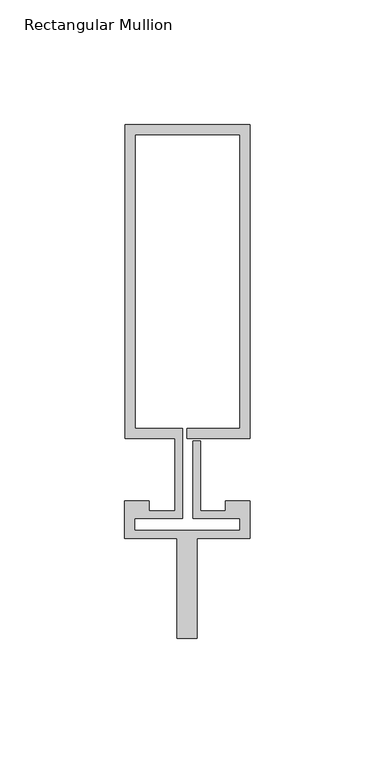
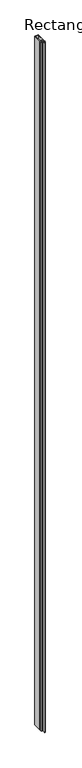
"""IFC4 building model written with IfcOpenShell, lengths in millimetres: member geometry, Rectangular Mullion : Reynaers_CW-50_Mullion-Transom_Vertical_125.5mm_Facecap-06B."""

from ifc_helpers import new_model, si_unit, frame, origin, place, context, project, spatial, polyline, outline, extrude, source, transform, mapped, element, save


def rectangular_mullion_82755fd9(model_context):
    return source(origin(), model_context, "Body", "SweptSolid", [
        extrude(outline(polyline([(-24.8004059, 138.0), (25.1995941, 138.0), (25.1995941, 12.5), (0.0, 12.5), (0.0, 16.5), (21.1995941, 16.5), (21.1995941, 134.0), (-20.8004059, 134.0), (-20.8004059, 16.5), (-1.9004059, 16.5), (-1.9004059, -19.5), (-20.994845, -19.5), (-20.994845, -24.4191338), (21.1995941, -24.4191338), (21.1995941, -19.5), (2.2995941, -19.5), (2.2995941, 11.5), (5.2995941, 11.5), (5.2995941, -16.5), (15.2996495, -16.5), (15.2996495, -12.5), (25.1995941, -12.5), (25.1995941, -27.5), (4.004855, -27.5), (4.004855, -67.5), (-3.995145, -67.5), (-3.995145, -27.5), (-24.994845, -27.5), (-24.994845, -12.5), (-15.2996495, -12.5), (-15.2996495, -16.5), (-4.9004059, -16.5), (-4.9004059, 12.5), (-24.8004059, 12.5), (-24.8004059, 138.0)])), frame((0.0, 0.0, -10400.0), z_axis=(0.0, 0.0, 1.0), x_axis=(1.0, 0.0, 0.0)), (0.0, 0.0, 1.0), 10400.0),
    ])


if __name__ == "__main__":
    model = new_model("IFC4")
    model_context = context("Model", 3, world=origin())
    ifc_project = project(units=[si_unit("LENGTHUNIT", "METRE", prefix="MILLI")], contexts=[model_context])
    site = spatial("IfcSite", under=ifc_project)
    building = spatial("IfcBuilding", under=site)
    placement = place(None, origin())
    rectangular_mullion_shape = rectangular_mullion_82755fd9(model_context)
    element("IfcMember", 1, ObjectType="Rectangular Mullion : Reynaers_CW-50_Mullion-Transom_Vertical_125.5mm_Facecap-06B", at=placement, inside=building, context=model_context, shape_type="MappedRepresentation", body=[
        mapped(rectangular_mullion_shape, transform((0.0, 0.0, 0.0), x_axis=(1.0, 0.0, 0.0), y_axis=(0.0, 1.0, 0.0), z_axis=(0.0, 0.0, 1.0))),
    ])
    save(model, "model.ifc")
